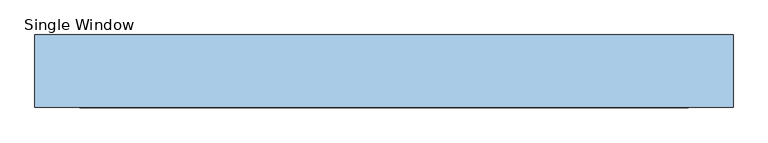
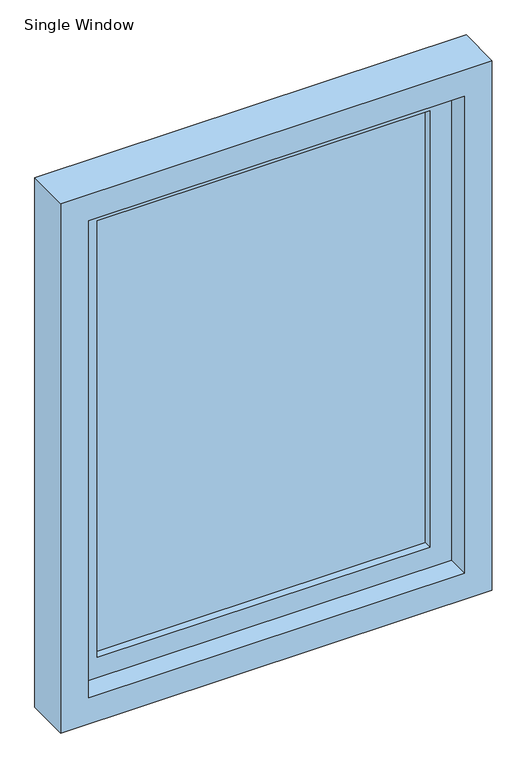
"""IFC4 building model written with IfcOpenShell, lengths in millimetres: window geometry, Single Window : 10x13 Inåtgående."""

from ifc_helpers import new_model, si_unit, frame, origin, place, context, project, spatial, polyline, outline, extrude, source, transform, mapped, element, save


def single_window_2865382c(model_context):
    return source(origin(), model_context, "Body", "SweptSolid", [
        extrude(outline(polyline([(865.0, 510.0), (2045.0, 510.0), (2045.0, -370.0), (865.0, -370.0), (865.0, 510.0)]), holes=[polyline([(1995.0, 460.0), (915.0, 460.0), (915.0, -320.0), (1995.0, -320.0), (1995.0, 460.0)])]), frame((0.0, -27.5, 0.0), z_axis=(0.0, 1.0, 0.0), x_axis=(0.0, 0.0, 1.0)), (0.0, 0.0, 1.0), 52.5),
        extrude(outline(polyline([(460.0, 6.75), (460.0, -9.25), (-320.0, -9.25), (-320.0, 6.75), (460.0, 6.75)])), frame((0.0, 0.0, 915.0), z_axis=(0.0, 0.0, 1.0), x_axis=(1.0, 0.0, 0.0)), (0.0, 0.0, 1.0), 1080.0),
        extrude(outline(polyline([(800.0, 575.0), (2110.0, 575.0), (2110.0, -435.0), (800.0, -435.0), (800.0, 575.0)]), holes=[polyline([(865.0, -370.0), (2045.0, -370.0), (2045.0, 510.0), (865.0, 510.0), (865.0, -370.0)])]), frame((0.0, -80.0, 0.0), z_axis=(0.0, 1.0, 0.0), x_axis=(0.0, 0.0, 1.0)), (0.0, 0.0, 1.0), 105.0),
    ])


if __name__ == "__main__":
    model = new_model("IFC4")
    model_context = context("Model", 3, world=origin())
    ifc_project = project(units=[si_unit("LENGTHUNIT", "METRE", prefix="MILLI")], contexts=[model_context])
    site = spatial("IfcSite", under=ifc_project)
    building = spatial("IfcBuilding", under=site)
    placement = place(None, origin())
    single_window_shape = single_window_2865382c(model_context)
    element("IfcWindow", 1, ObjectType="Single Window : 10x13 Inåtgående", at=placement, inside=building, context=model_context, shape_type="MappedRepresentation", body=[
        mapped(single_window_shape, transform((0.0, 0.0, 0.0), x_axis=(1.0, 0.0, 0.0), y_axis=(0.0, 1.0, 0.0), z_axis=(0.0, 0.0, 1.0))),
    ])
    save(model, "model.ifc")
